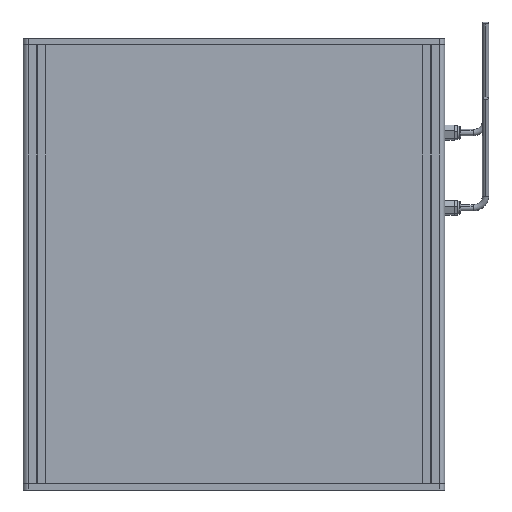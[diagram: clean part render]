
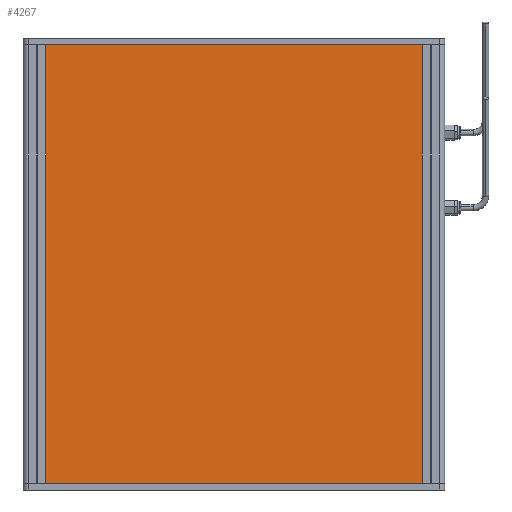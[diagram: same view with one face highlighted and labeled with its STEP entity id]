
A CAD part, front view. The second image highlights one B-rep face of the part: STEP entity #4267.
In plain terms, the highlighted planar face has unit normal (0, -1, 0) as drawn and (0, 0, 1) by its records, which use the part's own axes.
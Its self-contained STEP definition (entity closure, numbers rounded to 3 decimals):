
#226 = VERTEX_POINT ( 'NONE', #13731 ) ;
#416 = DIRECTION ( 'NONE',  ( 0., 0., -1. ) ) ;
#486 = LINE ( 'NONE', #1910, #14410 ) ;
#743 = LINE ( 'NONE', #15228, #13512 ) ;
#1638 = VERTEX_POINT ( 'NONE', #11658 ) ;
#1910 = CARTESIAN_POINT ( 'NONE',  ( -9., 0., 0. ) ) ;
#1991 = DIRECTION ( 'NONE',  ( -1., 0., 0. ) ) ;
#2351 = ORIENTED_EDGE ( 'NONE', *, *, #12344, .T. ) ;
#3656 = PLANE ( 'NONE',  #14926 ) ;
#3755 = EDGE_CURVE ( 'NONE', #9431, #1638, #13409, .T. ) ;
#4267 = ADVANCED_FACE ( 'NONE', ( #15447 ), #3656, .F. ) ;
#5596 = EDGE_LOOP ( 'NONE', ( #13372, #8450, #14624, #2351 ) ) ;
#5732 = LINE ( 'NONE', #8254, #14899 ) ;
#7496 = DIRECTION ( 'NONE',  ( 1., 0., 0. ) ) ;
#7666 = VECTOR ( 'NONE', #12059, 1000. ) ;
#8254 = CARTESIAN_POINT ( 'NONE',  ( -309., 0., 0. ) ) ;
#8315 = EDGE_CURVE ( 'NONE', #226, #11810, #5732, .T. ) ;
#8341 = DIRECTION ( 'NONE',  ( 0., -1., 0. ) ) ;
#8450 = ORIENTED_EDGE ( 'NONE', *, *, #9047, .T. ) ;
#8679 = CARTESIAN_POINT ( 'NONE',  ( -309., -350., 0. ) ) ;
#8832 = DIRECTION ( 'NONE',  ( -1., 0., 0. ) ) ;
#9047 = EDGE_CURVE ( 'NONE', #1638, #226, #486, .T. ) ;
#9311 = CARTESIAN_POINT ( 'NONE',  ( 0., 0., 0. ) ) ;
#9431 = VERTEX_POINT ( 'NONE', #15726 ) ;
#11658 = CARTESIAN_POINT ( 'NONE',  ( -9., 0., 0. ) ) ;
#11810 = VERTEX_POINT ( 'NONE', #8679 ) ;
#12059 = DIRECTION ( 'NONE',  ( 0., 1., 0. ) ) ;
#12344 = EDGE_CURVE ( 'NONE', #11810, #9431, #743, .T. ) ;
#13372 = ORIENTED_EDGE ( 'NONE', *, *, #3755, .T. ) ;
#13409 = LINE ( 'NONE', #15802, #7666 ) ;
#13512 = VECTOR ( 'NONE', #7496, 1000. ) ;
#13731 = CARTESIAN_POINT ( 'NONE',  ( -309., 0., 0. ) ) ;
#14410 = VECTOR ( 'NONE', #1991, 1000. ) ;
#14624 = ORIENTED_EDGE ( 'NONE', *, *, #8315, .T. ) ;
#14899 = VECTOR ( 'NONE', #8341, 1000. ) ;
#14926 = AXIS2_PLACEMENT_3D ( 'NONE', #9311, #416, #8832 ) ;
#15228 = CARTESIAN_POINT ( 'NONE',  ( -9., -350., 0. ) ) ;
#15447 = FACE_OUTER_BOUND ( 'NONE', #5596, .T. ) ;
#15726 = CARTESIAN_POINT ( 'NONE',  ( -9., -350., 0. ) ) ;
#15802 = CARTESIAN_POINT ( 'NONE',  ( -9., 0., 0. ) ) ;
